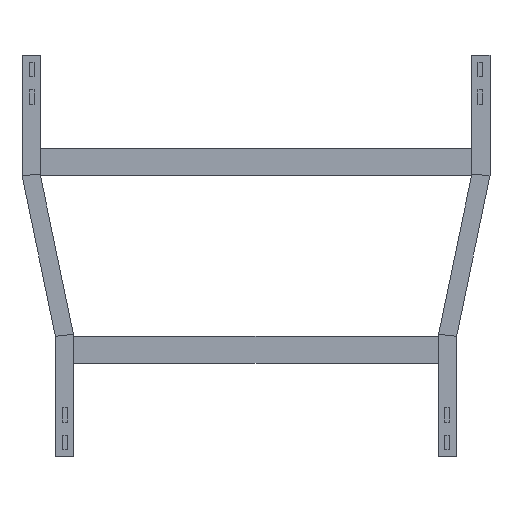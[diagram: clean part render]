
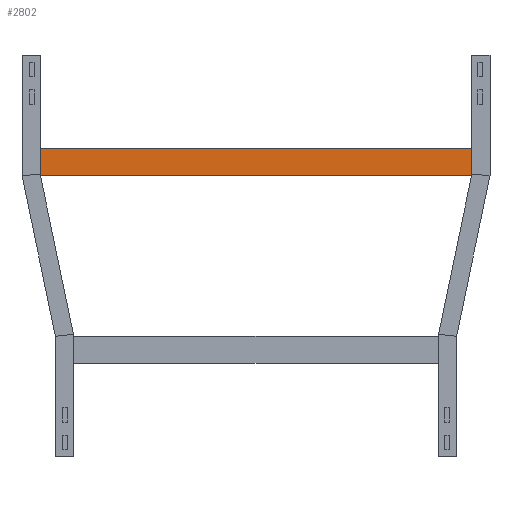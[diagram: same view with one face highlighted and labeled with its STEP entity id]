
A CAD part, front view. The second image highlights one B-rep face of the part: STEP entity #2802.
In plain terms, the highlighted planar face has unit normal (0, -1, 0).
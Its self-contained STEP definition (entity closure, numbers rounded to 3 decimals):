
#58 = CARTESIAN_POINT ( 'NONE',  ( 348., 0., 20.25 ) ) ;
#87 = DIRECTION ( 'NONE',  ( -1., 0., 0. ) ) ;
#164 = DIRECTION ( 'NONE',  ( 0., 0., -1. ) ) ;
#193 = DIRECTION ( 'NONE',  ( 0., 0., -1. ) ) ;
#344 = CARTESIAN_POINT ( 'NONE',  ( 348., 0., -20.25 ) ) ;
#457 = LINE ( 'NONE', #2938, #1299 ) ;
#580 = FACE_OUTER_BOUND ( 'NONE', #1161, .T. ) ;
#869 = CARTESIAN_POINT ( 'NONE',  ( 348., 0., 20.25 ) ) ;
#1114 = CARTESIAN_POINT ( 'NONE',  ( -348., 0., 20.25 ) ) ;
#1161 = EDGE_LOOP ( 'NONE', ( #1975, #1514, #3037, #3030 ) ) ;
#1299 = VECTOR ( 'NONE', #164, 1000. ) ;
#1451 = EDGE_CURVE ( 'NONE', #3390, #2047, #3538, .T. ) ;
#1514 = ORIENTED_EDGE ( 'NONE', *, *, #3911, .F. ) ;
#1612 = VERTEX_POINT ( 'NONE', #3067 ) ;
#1636 = VERTEX_POINT ( 'NONE', #869 ) ;
#1789 = EDGE_CURVE ( 'NONE', #1636, #3390, #3488, .T. ) ;
#1880 = AXIS2_PLACEMENT_3D ( 'NONE', #3068, #2762, #2461 ) ;
#1968 = VECTOR ( 'NONE', #87, 1000. ) ;
#1975 = ORIENTED_EDGE ( 'NONE', *, *, #1451, .T. ) ;
#1976 = EDGE_CURVE ( 'NONE', #1636, #1612, #457, .T. ) ;
#2047 = VERTEX_POINT ( 'NONE', #3683 ) ;
#2132 = CARTESIAN_POINT ( 'NONE',  ( -348., 0., 20.25 ) ) ;
#2277 = DIRECTION ( 'NONE',  ( -1., 0., 0. ) ) ;
#2404 = VECTOR ( 'NONE', #193, 1000. ) ;
#2461 = DIRECTION ( 'NONE',  ( 0., 0., 1. ) ) ;
#2723 = PLANE ( 'NONE',  #1880 ) ;
#2762 = DIRECTION ( 'NONE',  ( 0., 1., 0. ) ) ;
#2802 = ADVANCED_FACE ( 'NONE', ( #580 ), #2723, .F. ) ;
#2823 = LINE ( 'NONE', #344, #1968 ) ;
#2938 = CARTESIAN_POINT ( 'NONE',  ( 348., 0., 20.25 ) ) ;
#3030 = ORIENTED_EDGE ( 'NONE', *, *, #1789, .T. ) ;
#3037 = ORIENTED_EDGE ( 'NONE', *, *, #1976, .F. ) ;
#3067 = CARTESIAN_POINT ( 'NONE',  ( 348., 0., -20.25 ) ) ;
#3068 = CARTESIAN_POINT ( 'NONE',  ( 348., 0., 20.25 ) ) ;
#3390 = VERTEX_POINT ( 'NONE', #2132 ) ;
#3488 = LINE ( 'NONE', #58, #3875 ) ;
#3538 = LINE ( 'NONE', #1114, #2404 ) ;
#3683 = CARTESIAN_POINT ( 'NONE',  ( -348., 0., -20.25 ) ) ;
#3875 = VECTOR ( 'NONE', #2277, 1000. ) ;
#3911 = EDGE_CURVE ( 'NONE', #1612, #2047, #2823, .T. ) ;
